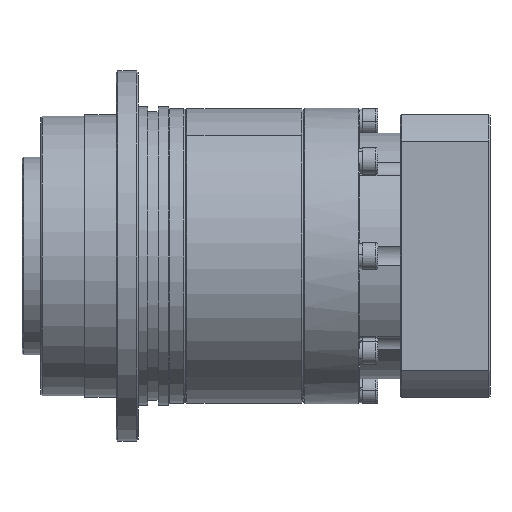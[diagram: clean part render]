
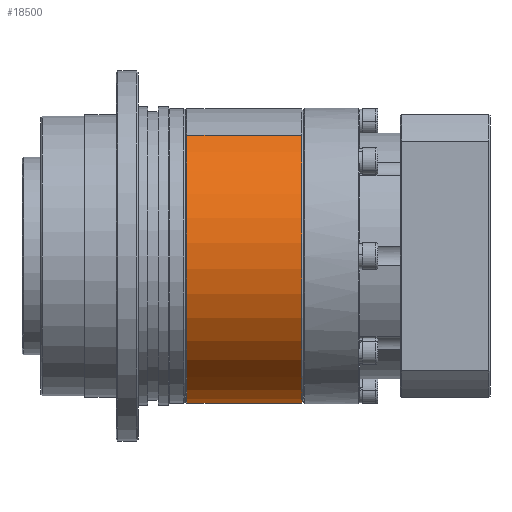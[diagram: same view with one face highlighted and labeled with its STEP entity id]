
A CAD part, front view. The second image highlights one B-rep face of the part: STEP entity #18500.
In plain terms, the highlighted cylindrical face has radius 47 mm (diameter 94 mm), a partial arc.
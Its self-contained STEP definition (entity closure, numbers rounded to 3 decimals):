
#722 = CIRCLE ( 'NONE', #16020, 47. ) ;
#886 = CARTESIAN_POINT ( 'NONE',  ( 37., 0., 0. ) ) ;
#1448 = CIRCLE ( 'NONE', #14391, 47. ) ;
#2075 = CIRCLE ( 'NONE', #27418, 47. ) ;
#3951 = EDGE_CURVE ( 'NONE', #12956, #18857, #17497, .T. ) ;
#4772 = DIRECTION ( 'NONE',  ( 0., 0., -1. ) ) ;
#6361 = CARTESIAN_POINT ( 'NONE',  ( 37., -47., 0. ) ) ;
#8806 = DIRECTION ( 'NONE',  ( -1., 0., 0. ) ) ;
#9489 = DIRECTION ( 'NONE',  ( -1., 0., 0. ) ) ;
#9662 = CARTESIAN_POINT ( 'NONE',  ( 0.5, 0., -47. ) ) ;
#10572 = CARTESIAN_POINT ( 'NONE',  ( 37., 0., -47. ) ) ;
#11565 = ORIENTED_EDGE ( 'NONE', *, *, #21794, .F. ) ;
#11956 = DIRECTION ( 'NONE',  ( -1., 0., 0. ) ) ;
#12956 = VERTEX_POINT ( 'NONE', #30822 ) ;
#13620 = DIRECTION ( 'NONE',  ( -1., 0., 0. ) ) ;
#13743 = LINE ( 'NONE', #33648, #33796 ) ;
#14391 = AXIS2_PLACEMENT_3D ( 'NONE', #21991, #13620, #4772 ) ;
#15573 = ORIENTED_EDGE ( 'NONE', *, *, #3951, .T. ) ;
#15877 = ORIENTED_EDGE ( 'NONE', *, *, #16862, .F. ) ;
#16020 = AXIS2_PLACEMENT_3D ( 'NONE', #34714, #9489, #20776 ) ;
#16862 = EDGE_CURVE ( 'NONE', #30544, #18857, #1448, .T. ) ;
#17497 = LINE ( 'NONE', #20307, #24554 ) ;
#18422 = FACE_OUTER_BOUND ( 'NONE', #30698, .T. ) ;
#18500 = ADVANCED_FACE ( 'NONE', ( #18422 ), #29644, .T. ) ;
#18857 = VERTEX_POINT ( 'NONE', #25399 ) ;
#20307 = CARTESIAN_POINT ( 'NONE',  ( 0., 0., 47. ) ) ;
#20776 = DIRECTION ( 'NONE',  ( 0., 0., 1. ) ) ;
#21794 = EDGE_CURVE ( 'NONE', #29267, #30544, #13743, .T. ) ;
#21991 = CARTESIAN_POINT ( 'NONE',  ( 0.5, 0., 0. ) ) ;
#24176 = DIRECTION ( 'NONE',  ( -1., 0., 0. ) ) ;
#24554 = VECTOR ( 'NONE', #11956, 1000. ) ;
#24712 = CARTESIAN_POINT ( 'NONE',  ( 0., 0., 0. ) ) ;
#25093 = VERTEX_POINT ( 'NONE', #6361 ) ;
#25399 = CARTESIAN_POINT ( 'NONE',  ( 0.5, 0., 47. ) ) ;
#25643 = DIRECTION ( 'NONE',  ( -1., 0., 0. ) ) ;
#27418 = AXIS2_PLACEMENT_3D ( 'NONE', #886, #25643, #31849 ) ;
#27456 = DIRECTION ( 'NONE',  ( 0., 0., 1. ) ) ;
#29267 = VERTEX_POINT ( 'NONE', #10572 ) ;
#29644 = CYLINDRICAL_SURFACE ( 'NONE', #30989, 47. ) ;
#30544 = VERTEX_POINT ( 'NONE', #9662 ) ;
#30698 = EDGE_LOOP ( 'NONE', ( #11565, #35969, #34554, #15573, #15877 ) ) ;
#30822 = CARTESIAN_POINT ( 'NONE',  ( 37., 0., 47. ) ) ;
#30989 = AXIS2_PLACEMENT_3D ( 'NONE', #24712, #24176, #27456 ) ;
#31849 = DIRECTION ( 'NONE',  ( 0., 0., 1. ) ) ;
#32209 = EDGE_CURVE ( 'NONE', #25093, #12956, #722, .T. ) ;
#33648 = CARTESIAN_POINT ( 'NONE',  ( 0., 0., -47. ) ) ;
#33796 = VECTOR ( 'NONE', #8806, 1000. ) ;
#34451 = EDGE_CURVE ( 'NONE', #29267, #25093, #2075, .T. ) ;
#34554 = ORIENTED_EDGE ( 'NONE', *, *, #32209, .T. ) ;
#34714 = CARTESIAN_POINT ( 'NONE',  ( 37., 0., 0. ) ) ;
#35969 = ORIENTED_EDGE ( 'NONE', *, *, #34451, .T. ) ;
